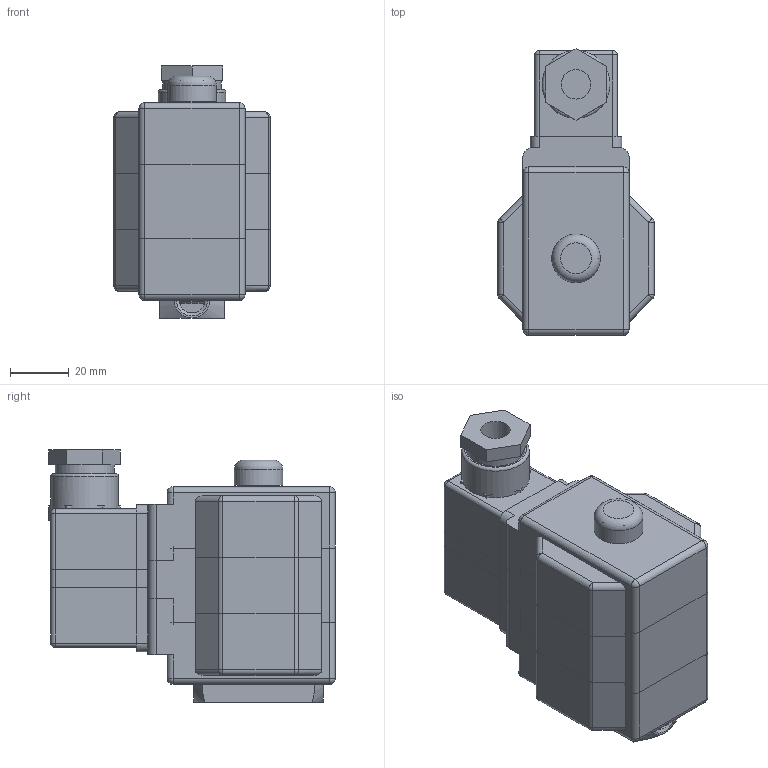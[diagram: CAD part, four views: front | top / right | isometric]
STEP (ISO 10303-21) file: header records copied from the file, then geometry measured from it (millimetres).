
FILE_DESCRIPTION( ( 'Unknown' ), '1' );
FILE_NAME( 'D:/Wyroby/Widoki gabarytowe/Zawory ZECA/ZECA_3/ZECA_3.stp', 'Unknown', ( 'Unknown' ), ( 'Unknown' ), 'XStep 1.0', 'Unknown', ' ' );
FILE_SCHEMA( ( 'CONFIG_CONTROL_DESIGN' ) );
Length unit declared in the file: millimetre
Products named in the file (17): Assem1; Wb_141_01_00; Wb_141_01_00_002; Wa_141_01_00_004; Wb_141_01_00_003; Wb_141_01_01; A_016_podk³adka_sprê¿ynuj¹ca_8; N_006M8; Os³ona_na_nakrêtkê; Wb_141_01_00_004; Wb_141_01_00_005彡i從i黎a20; Oring16x2彡i從i黎y; Cewka_UMO
Bounding box: 53 x 97.12 x 85.5 mm (x, y, z)
Volume: 384841.8 mm3; surface area: 99656.6 mm2
Topology: 44 solids, 44 shells, 725 faces, 1567 edges, 931 vertices
Faces by surface type: plane 301, cylinder 232, cone 132, sphere 40, torus 17, bspline 3
Full cylindrical faces by diameter (mm): 3 x6, 3.242 x6, 5 x3, 5.5 x6, 6 x3, 6.647 x3, 7 x8, 8 x5, 8.566 x6, 9.5 x3, 10 x2, 11 x3, 12 x9, 13 x12, 14 x10, 15 x6, 16.5 x3, 17 x9, 18.917 x3, 20 x5, 20.5 x6, 23 x2, 25 x2
Entity records: 12569 total; most frequent: CARTESIAN_POINT 6104, DIRECTION 1274, ORIENTED_EDGE 994, AXIS2_PLACEMENT_3D 535, EDGE_CURVE 497, EDGE_LOOP 388, VERTEX_POINT 339, FACE_OUTER_BOUND 331
